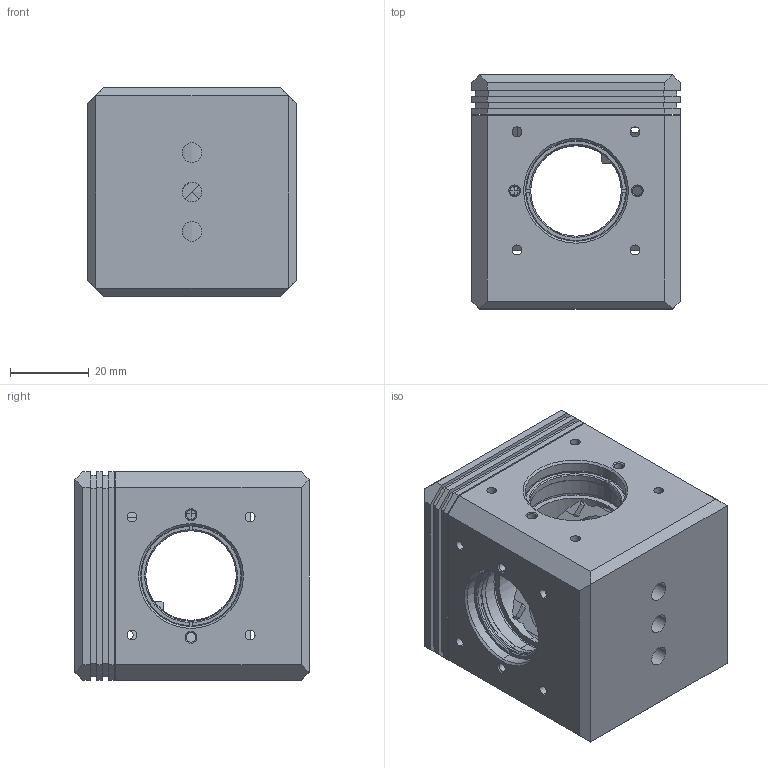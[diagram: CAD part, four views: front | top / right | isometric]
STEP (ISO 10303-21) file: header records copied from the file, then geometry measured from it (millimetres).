
FILE_DESCRIPTION (( 'STEP AP203' ), '1' );
FILE_NAME ('CSC1Q-MRS.STEP', '2024-03-28T03:20:32', ( '' ), ( '' ), 'SwSTEP 2.0', 'SolidWorks 2021', '' );
FILE_SCHEMA (( 'CONFIG_CONTROL_DESIGN' ));
Length unit declared in the file: millimetre
Products named in the file (1): CSC1Q-MRS
Bounding box: 53 x 59.5 x 53 mm (x, y, z)
Surface area: 27794.7 mm2 (no closed solid volume)
Topology: 0 solids, 30 shells, 351 faces, 1577 edges, 1241 vertices
Faces by surface type: plane 183, cylinder 96, cone 66, bspline 6
Entity records: 19226 total; most frequent: CARTESIAN_POINT 6745, DIRECTION 2423, ORIENTED_EDGE 2261, EDGE_CURVE 1577, VERTEX_POINT 1241, VECTOR 1009, LINE 1009, AXIS2_PLACEMENT_3D 707
